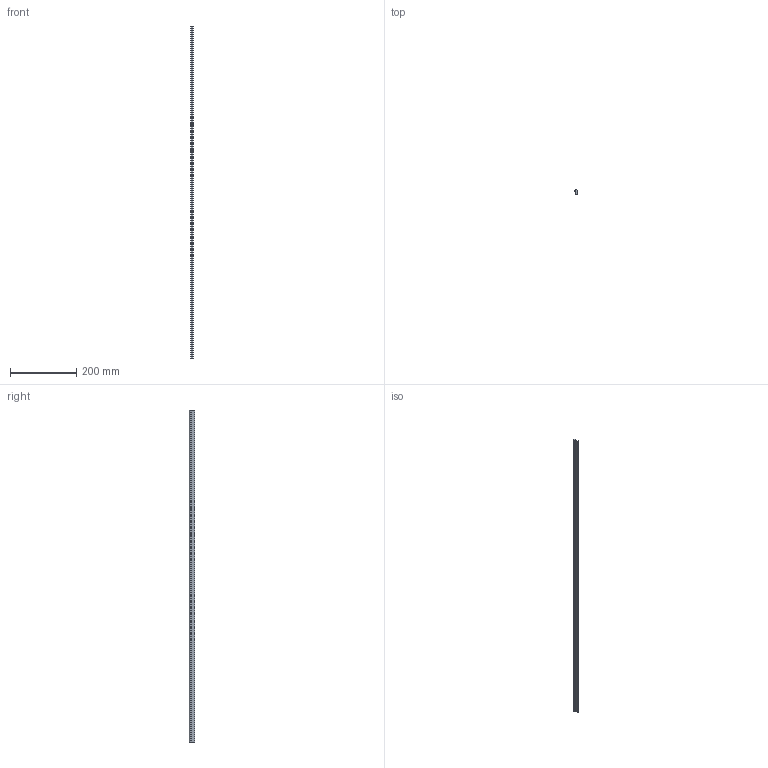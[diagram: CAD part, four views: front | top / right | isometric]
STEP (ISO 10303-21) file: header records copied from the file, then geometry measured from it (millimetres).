
FILE_DESCRIPTION(('STEP AP203'),'1');
FILE_NAME('T2SS-1000.stp','2020-09-30T01:57:17',(' '),(' '),'Spatial InterOp 3D',' ',' ');
FILE_SCHEMA(('CONFIG_CONTROL_DESIGN'));
Length unit declared in the file: millimetre
Products named in the file (1): T2SS-1000
Bounding box: 6.35 x 15.75 x 1000 mm (x, y, z)
Volume: 63706.9 mm3; surface area: 39942.4 mm2
Topology: 1 solids, 1 shells, 17 faces, 45 edges, 30 vertices
Faces by surface type: plane 9, cylinder 8
Entity records: 597 total; most frequent: DIRECTION 97, CARTESIAN_POINT 93, ORIENTED_EDGE 90, EDGE_CURVE 45, AXIS2_PLACEMENT_3D 34, VERTEX_POINT 30, LINE 29, VECTOR 29
